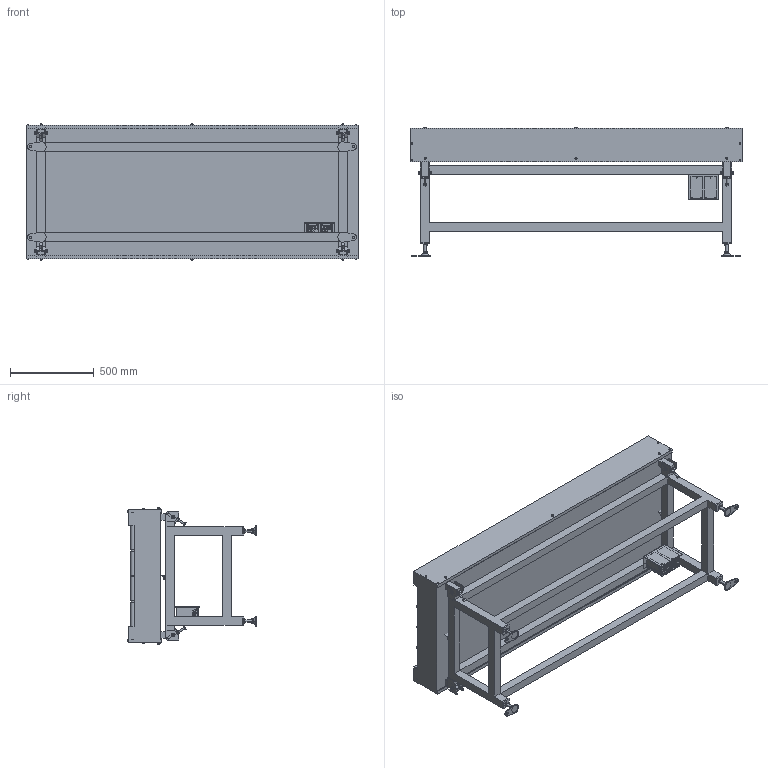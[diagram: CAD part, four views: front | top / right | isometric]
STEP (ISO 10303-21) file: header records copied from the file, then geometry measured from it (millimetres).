
FILE_DESCRIPTION( (''), '2;1');
FILE_NAME ('GA20H-304×2-600-200-R-IVH-18.stp','2024-05-20T09:50:44',(''),(''),'spGate 20.6.2 (****-****-****-****)','','');
FILE_SCHEMA (('AUTOMOTIVE_DESIGN'));
Length unit declared in the file: millimetre
Products named in the file (110): NewModel; TEMP_X_T-prt0; TEMP_X_T-prt1; TEMP_X_T-prt2; TEMP_X_T-prt3; TEMP_X_T-prt4; TEMP_X_T-prt5; TEMP_X_T-prt6; TEMP_X_T-prt7; TEMP_X_T-prt8; TEMP_X_T-prt9; TEMP_X_T-prt10; TEMP_X_T-prt11; TEMP_X_T-prt12; TEMP_X_T-prt13; TEMP_X_T-prt14; TEMP_X_T-prt15; TEMP_X_T-prt16; TEMP_X_T-prt17; TEMP_X_T-prt18; TEMP_X_T-prt19; TEMP_X_T-prt20; TEMP_X_T-prt21; TEMP_X_T-prt22; TEMP_X_T-prt23; TEMP_X_T-prt24; TEMP_X_T-prt25; TEMP_X_T-prt26; TEMP_X_T-prt27; TEMP_X_T-prt28; TEMP_X_T-prt29; TEMP_X_T-prt30; TEMP_X_T-prt31; TEMP_X_T-prt32; TEMP_X_T-prt33; TEMP_X_T-prt34; TEMP_X_T-prt35; TEMP_X_T-prt36; TEMP_X_T-prt37; TEMP_X_T-prt38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
Assembly tree (109 placements, depth 2):
  NewModel
    TEMP_X_T-prt0
    TEMP_X_T-prt1
    TEMP_X_T-prt2
    TEMP_X_T-prt3
    TEMP_X_T-prt4
    TEMP_X_T-prt5
    TEMP_X_T-prt6
    TEMP_X_T-prt7
    TEMP_X_T-prt8
    TEMP_X_T-prt9
    TEMP_X_T-prt10
    TEMP_X_T-prt11
    TEMP_X_T-prt12
    TEMP_X_T-prt13
    TEMP_X_T-prt14
    TEMP_X_T-prt15
    TEMP_X_T-prt16
    TEMP_X_T-prt17
    TEMP_X_T-prt18
    TEMP_X_T-prt19
    TEMP_X_T-prt20
    TEMP_X_T-prt21
    TEMP_X_T-prt22
    TEMP_X_T-prt23
    TEMP_X_T-prt24
    TEMP_X_T-prt25
    TEMP_X_T-prt26
    TEMP_X_T-prt27
    TEMP_X_T-prt28
    TEMP_X_T-prt29
    TEMP_X_T-prt30
    TEMP_X_T-prt31
    TEMP_X_T-prt32
    TEMP_X_T-prt33
    TEMP_X_T-prt34
    TEMP_X_T-prt35
    TEMP_X_T-prt36
    TEMP_X_T-prt37
    TEMP_X_T-prt38
    TEMP_X_T-prt39
    TEMP_X_T-prt40
    TEMP_X_T-prt41
    TEMP_X_T-prt42
    TEMP_X_T-prt43
    TEMP_X_T-prt44
    TEMP_X_T-prt45
    TEMP_X_T-prt46
    TEMP_X_T-prt47
    TEMP_X_T-prt48
    TEMP_X_T-prt49
    TEMP_X_T-prt50
    TEMP_X_T-prt51
    TEMP_X_T-prt52
    TEMP_X_T-prt53
    TEMP_X_T-prt54
    TEMP_X_T-prt55
    TEMP_X_T-prt56
    TEMP_X_T-prt57
    TEMP_X_T-prt58
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Bounding box: 1985 x 768.7 x 814.2 mm (x, y, z)
Volume: 328336880.9 mm3; surface area: 12783164.8 mm2
Topology: 109 solids, 109 shells, 4086 faces, 10007 edges, 6536 vertices
Faces by surface type: plane 2824, cylinder 1166, bspline 88, sphere 8
Entity records: 205070 total; most frequent: CARTESIAN_POINT 23849, ORIENTED_EDGE 19998, DIRECTION 19963, COLOUR_RGB 14194, PRESENTATION_STYLE_ASSIGNMENT 14194, STYLED_ITEM 14194, EDGE_CURVE 9999, DRAUGHTING_PRE_DEFINED_CURVE_FONT 9999
